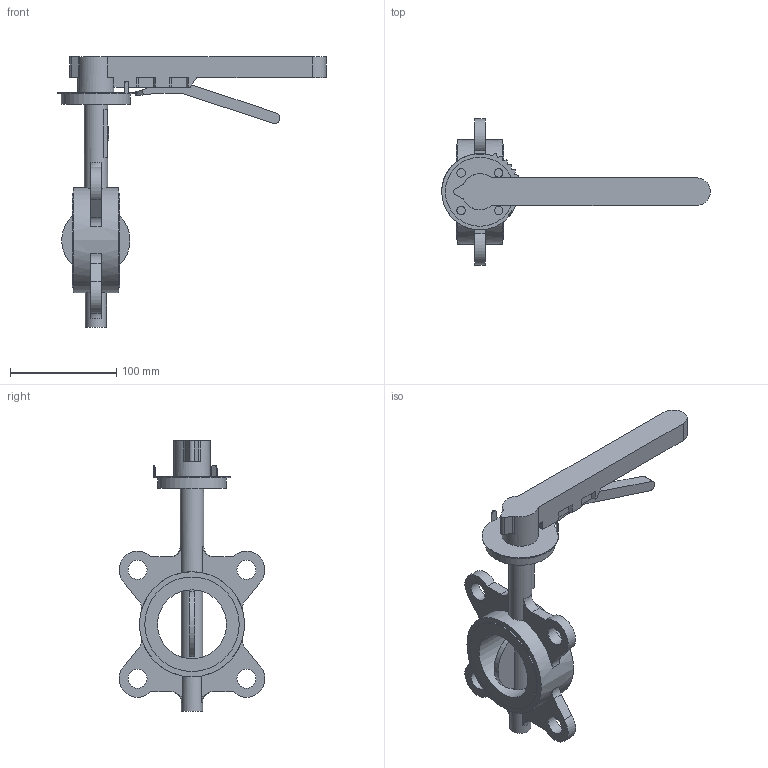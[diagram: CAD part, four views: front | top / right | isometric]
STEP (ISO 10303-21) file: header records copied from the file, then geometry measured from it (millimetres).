
FILE_DESCRIPTION(('STEP AP203'), '1');
FILE_NAME('Çàòâîð 017W.Y_DN60_ðóêîÿòü', '', ('UNSPECIFIED'), ('UNSPECIFIED'), 'ASCON STEP Converter 1.6', 'ASCON Math Kernel', '');
FILE_SCHEMA(('CONFIG_CONTROL_DESIGN'));
Length unit declared in the file: millimetre
Bounding box: 252.97 x 137.4 x 255 mm (x, y, z)
Volume: 524054.6 mm3; surface area: 103134.9 mm2
Topology: 1 solids, 1 shells, 187 faces, 499 edges, 331 vertices
Faces by surface type: plane 115, cylinder 68, torus 4
Full cylindrical faces by diameter (mm): 8 x4, 18 x4, 20 x2, 22 x1, 34 x1, 65 x2, 89 x2, 99 x1
Entity records: 8498 total; most frequent: CARTESIAN_POINT 2237, DIRECTION 985, ORIENTED_EDGE 964, EDGE_CURVE 482, AXIS2_PLACEMENT_3D 342, VERTEX_POINT 331, LINE 301, VECTOR 301
